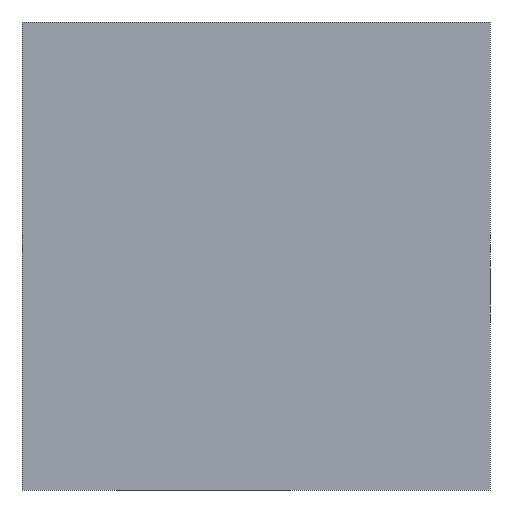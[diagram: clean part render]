
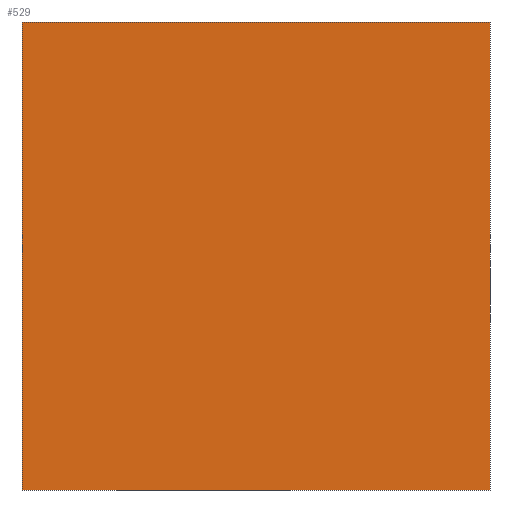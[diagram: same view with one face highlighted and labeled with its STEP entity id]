
A CAD part, front view. The second image highlights one B-rep face of the part: STEP entity #529.
In plain terms, the highlighted planar face has unit normal (0, -1, 0).
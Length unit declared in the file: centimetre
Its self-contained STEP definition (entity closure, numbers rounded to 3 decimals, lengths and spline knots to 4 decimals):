
#46 = VERTEX_POINT ( 'NONE', #433 ) ;
#74 = FACE_OUTER_BOUND ( 'NONE', #329, .T. ) ;
#83 = DIRECTION ( 'NONE',  ( 0., 0., 1. ) ) ;
#86 = EDGE_CURVE ( 'NONE', #46, #476, #348, .T. ) ;
#132 = VECTOR ( 'NONE', #1045, 100. ) ;
#151 = ORIENTED_EDGE ( 'NONE', *, *, #670, .F. ) ;
#152 = EDGE_CURVE ( 'NONE', #232, #838, #363, .T. ) ;
#172 = CARTESIAN_POINT ( 'NONE',  ( 0., 0., 1000. ) ) ;
#232 = VERTEX_POINT ( 'NONE', #403 ) ;
#259 = LINE ( 'NONE', #798, #442 ) ;
#288 = ORIENTED_EDGE ( 'NONE', *, *, #152, .F. ) ;
#329 = EDGE_LOOP ( 'NONE', ( #440, #151, #288, #734 ) ) ;
#348 = LINE ( 'NONE', #1054, #132 ) ;
#351 = DIRECTION ( 'NONE',  ( 0., 0., -1. ) ) ;
#355 = CARTESIAN_POINT ( 'NONE',  ( 0., 0., 1000. ) ) ;
#363 = LINE ( 'NONE', #355, #540 ) ;
#403 = CARTESIAN_POINT ( 'NONE',  ( 0., 0., 1000. ) ) ;
#424 = AXIS2_PLACEMENT_3D ( 'NONE', #172, #882, #83 ) ;
#431 = PLANE ( 'NONE',  #424 ) ;
#433 = CARTESIAN_POINT ( 'NONE',  ( 0., 0., 0. ) ) ;
#440 = ORIENTED_EDGE ( 'NONE', *, *, #86, .T. ) ;
#442 = VECTOR ( 'NONE', #351, 100. ) ;
#476 = VERTEX_POINT ( 'NONE', #1032 ) ;
#493 = VECTOR ( 'NONE', #631, 100. ) ;
#529 = ADVANCED_FACE ( 'NONE', ( #74 ), #431, .F. ) ;
#540 = VECTOR ( 'NONE', #628, 100. ) ;
#628 = DIRECTION ( 'NONE',  ( 1., 0., 0. ) ) ;
#631 = DIRECTION ( 'NONE',  ( 0., 0., -1. ) ) ;
#670 = EDGE_CURVE ( 'NONE', #838, #476, #259, .T. ) ;
#734 = ORIENTED_EDGE ( 'NONE', *, *, #751, .T. ) ;
#744 = CARTESIAN_POINT ( 'NONE',  ( 1000., 0., 1000. ) ) ;
#749 = LINE ( 'NONE', #813, #493 ) ;
#751 = EDGE_CURVE ( 'NONE', #232, #46, #749, .T. ) ;
#798 = CARTESIAN_POINT ( 'NONE',  ( 1000., 0., 1000. ) ) ;
#813 = CARTESIAN_POINT ( 'NONE',  ( 0., 0., 1000. ) ) ;
#838 = VERTEX_POINT ( 'NONE', #744 ) ;
#882 = DIRECTION ( 'NONE',  ( 0., 1., 0. ) ) ;
#1032 = CARTESIAN_POINT ( 'NONE',  ( 1000., 0., 0. ) ) ;
#1045 = DIRECTION ( 'NONE',  ( 1., 0., 0. ) ) ;
#1054 = CARTESIAN_POINT ( 'NONE',  ( 0., 0., 0. ) ) ;
